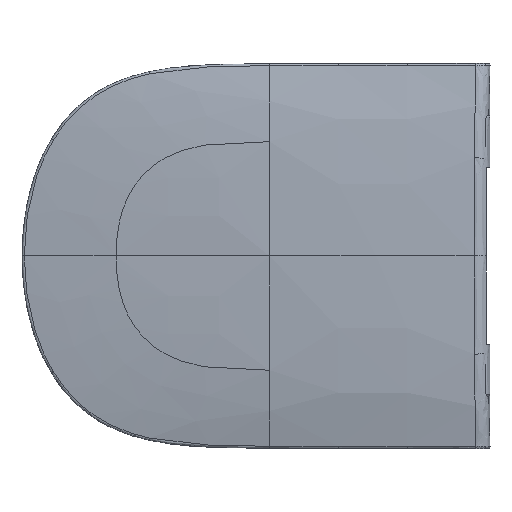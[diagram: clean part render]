
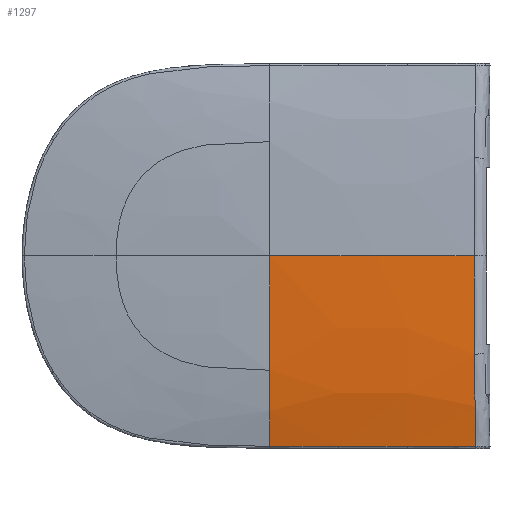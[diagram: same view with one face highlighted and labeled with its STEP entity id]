
A CAD part, top view. The second image highlights one B-rep face of the part: STEP entity #1297.
In plain terms, the highlighted free-form (B-spline) face has degree [3, 3] with [4, 4] control points.
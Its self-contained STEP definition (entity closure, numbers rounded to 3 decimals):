
#148=B_SPLINE_SURFACE_WITH_KNOTS('',3,3,((#9852,#9853,#9854,#9855),(#9856,
#9857,#9858,#9859),(#9860,#9861,#9862,#9863),(#9864,#9865,#9866,#9867)),
 .UNSPECIFIED.,.F.,.F.,.F.,(4,4),(4,4),(0.,1.),(0.,1.),.UNSPECIFIED.);
#463=B_SPLINE_CURVE_WITH_KNOTS('',5,(#5592,#5593,#5594,#5595,#5596,#5597),
 .UNSPECIFIED.,.F.,.F.,(6,6),(0.,1.),.UNSPECIFIED.);
#468=B_SPLINE_CURVE_WITH_KNOTS('',3,(#5672,#5673,#5674,#5675,#5676,#5677),
 .UNSPECIFIED.,.F.,.F.,(4,2,4),(0.,0.5,1.),.UNSPECIFIED.);
#563=B_SPLINE_CURVE_WITH_KNOTS('',2,(#8055,#8056,#8057),.UNSPECIFIED.,.F.,
 .F.,(3,3),(0.,1.),.UNSPECIFIED.);
#566=B_SPLINE_CURVE_WITH_KNOTS('',2,(#8086,#8087,#8088),.UNSPECIFIED.,.F.,
 .F.,(3,3),(0.,1.),.UNSPECIFIED.);
#573=B_SPLINE_CURVE_WITH_KNOTS('',2,(#8290,#8291,#8292),.UNSPECIFIED.,.F.,
 .F.,(3,3),(0.,1.),.UNSPECIFIED.);
#592=B_SPLINE_CURVE_WITH_KNOTS('',3,(#8911,#8912,#8913,#8914),
 .UNSPECIFIED.,.F.,.F.,(4,4),(0.,1.),.UNSPECIFIED.);
#628=B_SPLINE_CURVE_WITH_KNOTS('',3,(#9843,#9844,#9845,#9846),
 .UNSPECIFIED.,.F.,.F.,(4,4),(0.,1.),.UNSPECIFIED.);
#629=B_SPLINE_CURVE_WITH_KNOTS('',3,(#9848,#9849,#9850,#9851),
 .UNSPECIFIED.,.F.,.F.,(4,4),(0.,1.),.UNSPECIFIED.);
#1297=ADVANCED_FACE('',(#1656),#148,.T.);
#1656=FACE_OUTER_BOUND('',#1968,.T.);
#1968=EDGE_LOOP('',(#2558,#2559,#2560,#2561,#2562,#2563,#2564,#2565));
#2558=ORIENTED_EDGE('',*,*,#4421,.F.);
#2559=ORIENTED_EDGE('',*,*,#4590,.F.);
#2560=ORIENTED_EDGE('',*,*,#4591,.T.);
#2561=ORIENTED_EDGE('',*,*,#4553,.F.);
#2562=ORIENTED_EDGE('',*,*,#4525,.F.);
#2563=ORIENTED_EDGE('',*,*,#4522,.F.);
#2564=ORIENTED_EDGE('',*,*,#4534,.F.);
#2565=ORIENTED_EDGE('',*,*,#4426,.F.);
#3898=VERTEX_POINT('',#5570);
#3900=VERTEX_POINT('',#5591);
#3905=VERTEX_POINT('',#5678);
#3974=VERTEX_POINT('',#8043);
#3976=VERTEX_POINT('',#8054);
#3977=VERTEX_POINT('',#8082);
#3994=VERTEX_POINT('',#8915);
#4010=VERTEX_POINT('',#9847);
#4421=EDGE_CURVE('',#3900,#3898,#463,.T.);
#4426=EDGE_CURVE('',#3898,#3905,#468,.T.);
#4522=EDGE_CURVE('',#3976,#3974,#563,.T.);
#4525=EDGE_CURVE('',#3974,#3977,#566,.T.);
#4534=EDGE_CURVE('',#3905,#3976,#573,.T.);
#4553=EDGE_CURVE('',#3977,#3994,#592,.T.);
#4590=EDGE_CURVE('',#4010,#3900,#628,.T.);
#4591=EDGE_CURVE('',#4010,#3994,#629,.T.);
#5570=CARTESIAN_POINT('',(-1.424,-93.664,22.688));
#5591=CARTESIAN_POINT('',(-1.719,0.,24.406));
#5592=CARTESIAN_POINT('',(-1.719,0.,24.406));
#5593=CARTESIAN_POINT('',(-1.719,-18.738,24.406));
#5594=CARTESIAN_POINT('',(-1.702,-37.476,24.32));
#5595=CARTESIAN_POINT('',(-1.657,-56.212,24.075));
#5596=CARTESIAN_POINT('',(-1.569,-74.948,23.589));
#5597=CARTESIAN_POINT('',(-1.424,-93.664,22.688));
#5672=CARTESIAN_POINT('',(-1.424,-93.664,22.688));
#5673=CARTESIAN_POINT('',(-1.31,-108.381,21.979));
#5674=CARTESIAN_POINT('',(-1.152,-123.087,20.976));
#5675=CARTESIAN_POINT('',(-0.726,-152.384,17.839));
#5676=CARTESIAN_POINT('',(-0.461,-166.997,15.736));
#5677=CARTESIAN_POINT('',(-0.161,-181.353,12.432));
#5678=CARTESIAN_POINT('',(-0.161,-181.353,12.432));
#8043=CARTESIAN_POINT('',(-131.045,-181.509,12.535));
#8054=CARTESIAN_POINT('',(-65.48,-181.504,12.515));
#8055=CARTESIAN_POINT('',(-65.48,-181.504,12.515));
#8056=CARTESIAN_POINT('',(-98.263,-181.55,12.538));
#8057=CARTESIAN_POINT('',(-131.045,-181.509,12.535));
#8082=CARTESIAN_POINT('',(-196.609,-181.312,12.507));
#8086=CARTESIAN_POINT('',(-131.045,-181.509,12.535));
#8087=CARTESIAN_POINT('',(-163.827,-181.468,12.532));
#8088=CARTESIAN_POINT('',(-196.609,-181.312,12.507));
#8290=CARTESIAN_POINT('',(-0.161,-181.353,12.433));
#8291=CARTESIAN_POINT('',(-32.821,-181.458,12.492));
#8292=CARTESIAN_POINT('',(-65.48,-181.504,12.515));
#8911=CARTESIAN_POINT('',(-196.609,-181.312,12.507));
#8912=CARTESIAN_POINT('',(-196.609,-160.757,18.207));
#8913=CARTESIAN_POINT('',(-196.626,-136.219,21.781));
#8914=CARTESIAN_POINT('',(-196.645,-108.876,23.986));
#8915=CARTESIAN_POINT('',(-196.645,-108.876,23.986));
#9843=CARTESIAN_POINT('',(-196.692,0.,27.308));
#9844=CARTESIAN_POINT('',(-131.692,0.,28.588));
#9845=CARTESIAN_POINT('',(-66.634,0.,28.044));
#9846=CARTESIAN_POINT('',(-1.719,0.,24.406));
#9847=CARTESIAN_POINT('',(-196.692,0.,27.308));
#9848=CARTESIAN_POINT('',(-196.692,0.,27.308));
#9849=CARTESIAN_POINT('',(-196.692,-38.986,27.308));
#9850=CARTESIAN_POINT('',(-196.667,-75.963,26.64));
#9851=CARTESIAN_POINT('',(-196.645,-108.876,23.986));
#9852=CARTESIAN_POINT('',(1.016,0.,24.251));
#9853=CARTESIAN_POINT('',(1.016,-71.99,24.251));
#9854=CARTESIAN_POINT('',(1.016,-137.029,22.747));
#9855=CARTESIAN_POINT('',(1.017,-182.24,12.225));
#9856=CARTESIAN_POINT('',(-64.807,0.,28.029));
#9857=CARTESIAN_POINT('',(-64.807,-71.93,28.029));
#9858=CARTESIAN_POINT('',(-64.777,-137.033,26.27));
#9859=CARTESIAN_POINT('',(-64.854,-182.364,12.3));
#9860=CARTESIAN_POINT('',(-130.779,0.,28.606));
#9861=CARTESIAN_POINT('',(-130.779,-71.871,28.606));
#9862=CARTESIAN_POINT('',(-130.721,-137.008,26.592));
#9863=CARTESIAN_POINT('',(-130.731,-182.428,12.307));
#9864=CARTESIAN_POINT('',(-196.692,0.,27.308));
#9865=CARTESIAN_POINT('',(-196.692,-71.812,27.308));
#9866=CARTESIAN_POINT('',(-196.607,-136.81,25.04));
#9867=CARTESIAN_POINT('',(-196.609,-182.146,12.274));
